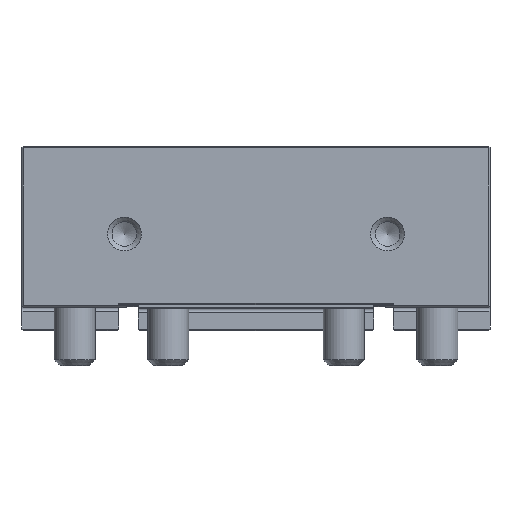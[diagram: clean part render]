
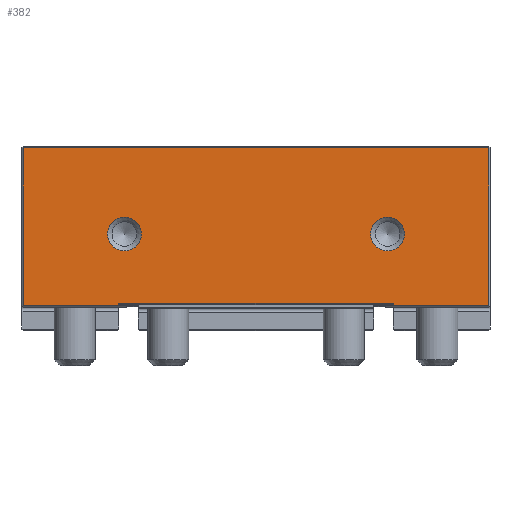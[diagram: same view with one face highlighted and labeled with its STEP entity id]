
A CAD part, front view. The second image highlights one B-rep face of the part: STEP entity #382.
In plain terms, the highlighted planar face has unit normal (0, -1, 0).
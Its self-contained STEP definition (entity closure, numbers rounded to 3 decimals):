
#382=ADVANCED_FACE('',(#3182,#3184,#3186),#3188,.T.);
#3182=FACE_BOUND('',#3183,.T.);
#3183=EDGE_LOOP('',(#5547,#5548,#5549,#5550,#5551,#5552,#5553,#5554));
#3184=FACE_BOUND('',#3185,.T.);
#3185=EDGE_LOOP('',(#5555));
#3186=FACE_BOUND('',#3187,.T.);
#3187=EDGE_LOOP('',(#5556));
#3188=PLANE('',#3189);
#3189=AXIS2_PLACEMENT_3D('',#3190,#3191,#3192);
#3190=CARTESIAN_POINT('',(-80.,-43.,0.));
#3191=DIRECTION('',(0.,-1.,0.));
#3192=DIRECTION('',(1.,0.,0.));
#5547=ORIENTED_EDGE('',*,*,#6573,.F.);
#5548=ORIENTED_EDGE('',*,*,#6587,.F.);
#5549=ORIENTED_EDGE('',*,*,#6588,.T.);
#5550=ORIENTED_EDGE('',*,*,#6589,.T.);
#5551=ORIENTED_EDGE('',*,*,#6590,.T.);
#5552=ORIENTED_EDGE('',*,*,#6551,.T.);
#5553=ORIENTED_EDGE('',*,*,#6546,.T.);
#5554=ORIENTED_EDGE('',*,*,#6591,.T.);
#5555=ORIENTED_EDGE('',*,*,#6592,.T.);
#5556=ORIENTED_EDGE('',*,*,#6593,.T.);
#6546=EDGE_CURVE('',#7133,#7131,#7134,.F.);
#6551=EDGE_CURVE('',#7142,#7133,#7143,.F.);
#6573=EDGE_CURVE('',#7179,#7177,#7181,.T.);
#6587=EDGE_CURVE('',#7205,#7179,#7206,.T.);
#6588=EDGE_CURVE('',#7205,#7207,#7208,.F.);
#6589=EDGE_CURVE('',#7207,#7209,#7210,.F.);
#6590=EDGE_CURVE('',#7209,#7142,#7211,.F.);
#6591=EDGE_CURVE('',#7131,#7177,#7212,.T.);
#6592=EDGE_CURVE('',#7213,#7213,#7214,.F.);
#6593=EDGE_CURVE('',#7215,#7215,#7216,.F.);
#7131=VERTEX_POINT('',#8444);
#7133=VERTEX_POINT('',#8448);
#7134=LINE('',#8449,#8450);
#7142=VERTEX_POINT('',#8468);
#7143=LINE('',#8469,#8470);
#7177=VERTEX_POINT('',#8545);
#7179=VERTEX_POINT('',#8549);
#7181=LINE('',#8553,#8554);
#7205=VERTEX_POINT('',#8611);
#7206=LINE('',#8612,#8613);
#7207=VERTEX_POINT('',#8615);
#7208=LINE('',#8616,#8617);
#7209=VERTEX_POINT('',#8619);
#7210=LINE('',#8620,#8621);
#7211=LINE('',#8623,#8624);
#7212=LINE('',#8626,#8627);
#7213=VERTEX_POINT('',#8629);
#7214=CIRCLE('',#8630,5.788);
#7215=VERTEX_POINT('',#8634);
#7216=CIRCLE('',#8635,5.788);
#8444=CARTESIAN_POINT('',(79.5,-43.,8.5));
#8448=CARTESIAN_POINT('',(47.,-43.,8.5));
#8449=CARTESIAN_POINT('',(79.5,-43.,8.5));
#8450=VECTOR('',#8451,1.);
#8451=DIRECTION('',(-1.,0.,0.));
#8468=CARTESIAN_POINT('',(47.,-43.,9.4));
#8469=CARTESIAN_POINT('',(47.,-43.,8.5));
#8470=VECTOR('',#8471,1.);
#8471=DIRECTION('',(0.,0.,1.));
#8545=CARTESIAN_POINT('',(79.5,-43.,62.5));
#8549=CARTESIAN_POINT('',(-79.5,-43.,62.5));
#8553=CARTESIAN_POINT('',(-79.5,-43.,62.5));
#8554=VECTOR('',#8555,1.);
#8555=DIRECTION('',(1.,0.,0.));
#8611=CARTESIAN_POINT('',(-79.5,-43.,8.5));
#8612=CARTESIAN_POINT('',(-79.5,-43.,8.5));
#8613=VECTOR('',#8614,1.);
#8614=DIRECTION('',(0.,0.,1.));
#8615=CARTESIAN_POINT('',(-47.,-43.,8.5));
#8616=CARTESIAN_POINT('',(-47.,-43.,8.5));
#8617=VECTOR('',#8618,1.);
#8618=DIRECTION('',(-1.,0.,0.));
#8619=CARTESIAN_POINT('',(-47.,-43.,9.4));
#8620=CARTESIAN_POINT('',(-47.,-43.,9.4));
#8621=VECTOR('',#8622,1.);
#8622=DIRECTION('',(0.,0.,-1.));
#8623=CARTESIAN_POINT('',(47.,-43.,9.4));
#8624=VECTOR('',#8625,1.);
#8625=DIRECTION('',(-1.,0.,0.));
#8626=CARTESIAN_POINT('',(79.5,-43.,8.5));
#8627=VECTOR('',#8628,1.);
#8628=DIRECTION('',(0.,0.,1.));
#8629=CARTESIAN_POINT('',(50.788,-43.,33.));
#8630=AXIS2_PLACEMENT_3D('',#8631,#8632,#8633);
#8631=CARTESIAN_POINT('',(45.,-43.,33.));
#8632=DIRECTION('',(0.,-1.,0.));
#8633=DIRECTION('',(1.,0.,0.));
#8634=CARTESIAN_POINT('',(-39.212,-43.,33.));
#8635=AXIS2_PLACEMENT_3D('',#8636,#8637,#8638);
#8636=CARTESIAN_POINT('',(-45.,-43.,33.));
#8637=DIRECTION('',(0.,-1.,0.));
#8638=DIRECTION('',(1.,0.,0.));
